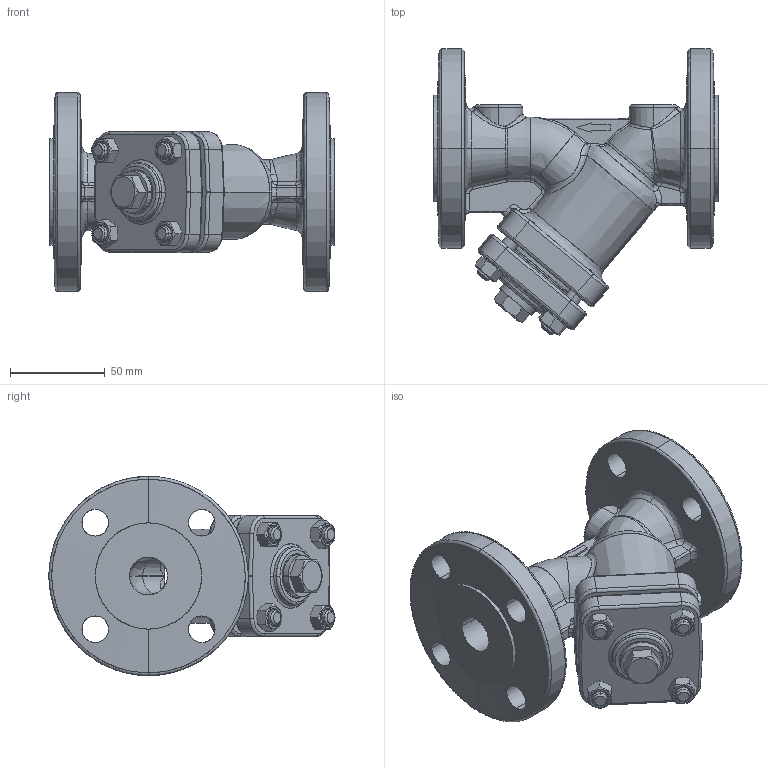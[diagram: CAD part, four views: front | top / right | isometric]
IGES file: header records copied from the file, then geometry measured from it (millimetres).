
Start section: SolidWorks IGES file using analytic representation for surfaces
Global section: file name: D:\katalog z³o¿eñ\00_Gotowe\821\RYSUNKI DXF\Z£O¯ENIA\Part\821_DN20_PN16.IGS; native system: SolidWorks 2010; preprocessor: SolidWorks 2010; author: alisowsk; date: 100108.122824; units: millimetre
Bounding box: 150 x 150.88 x 105 mm (x, y, z)
Surface area: 111616.5 mm2 (no closed solid volume)
Topology: 0 solids, 0 shells, 477 faces, 7648 edges, 7648 vertices
Faces by surface type: bspline 242, revolution 235
